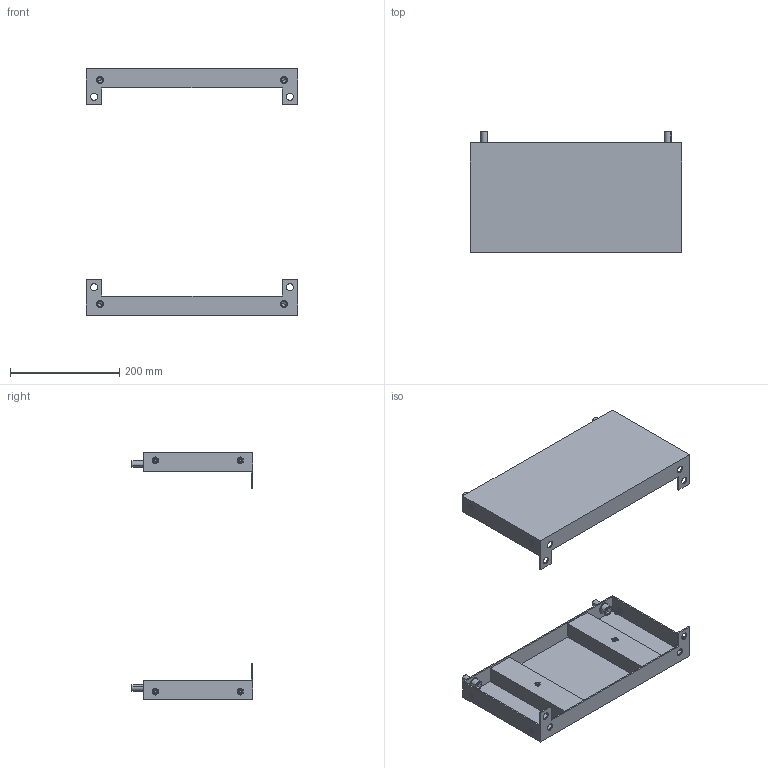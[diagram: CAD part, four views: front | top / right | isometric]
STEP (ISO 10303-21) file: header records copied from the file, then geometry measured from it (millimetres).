
FILE_DESCRIPTION (( 'STEP AP203' ), '1' );
FILE_NAME ('R6PLB45-200 H=450 SIMPLE.STEP', '2026-07-22T11:08:19', ( '' ), ( '' ), 'SwSTEP 2.0', 'SolidWorks 2022', '' );
FILE_SCHEMA (( 'CONFIG_CONTROL_DESIGN' ));
Length unit declared in the file: millimetre
Products named in the file (8): M6 MGS-MPO-0635_straight; 12 DIN 6798 A Zinc; РГМЦ.RB.3309.00.02.0 simple_-01; РГМЦ.RB.3309.00.00.0 СБ SIMPLE 04-07_-07; M12x25 DIN 912 HX cl.8,8 Zinc_stright; РГМЦ.RB.3309.00.01.0 simple_-07; M6 MGS-MPO-0635_thread; R6PLB45-200 H=450 SIMPLE
Assembly tree (19 placements, depth 3):
  R6PLB45-200 H=450 SIMPLE
    РГМЦ.RB.3309.00.00.0 СБ SIMPLE 04-07_-07  x2
      РГМЦ.RB.3309.00.01.0 simple_-07
      M6 MGS-MPO-0635_thread
      РГМЦ.RB.3309.00.02.0 simple_-01
      M6 MGS-MPO-0635_straight
    12 DIN 6798 A Zinc  x4
    M12x25 DIN 912 HX cl.8,8 Zinc_stright  x4
Bounding box: 386.7 x 221.5 x 450 mm (x, y, z)
Volume: 807326.6 mm3; surface area: 660285.8 mm2
Topology: 26 solids, 26 shells, 1468 faces, 3828 edges, 2188 vertices
Faces by surface type: plane 556, cylinder 544, bspline 152, sphere 144, cone 40, torus 32
Entity records: 13372 total; most frequent: CARTESIAN_POINT 5039, ORIENTED_EDGE 1540, DIRECTION 1409, EDGE_CURVE 770, VERTEX_POINT 482, AXIS2_PLACEMENT_3D 473, VECTOR 463, LINE 463
